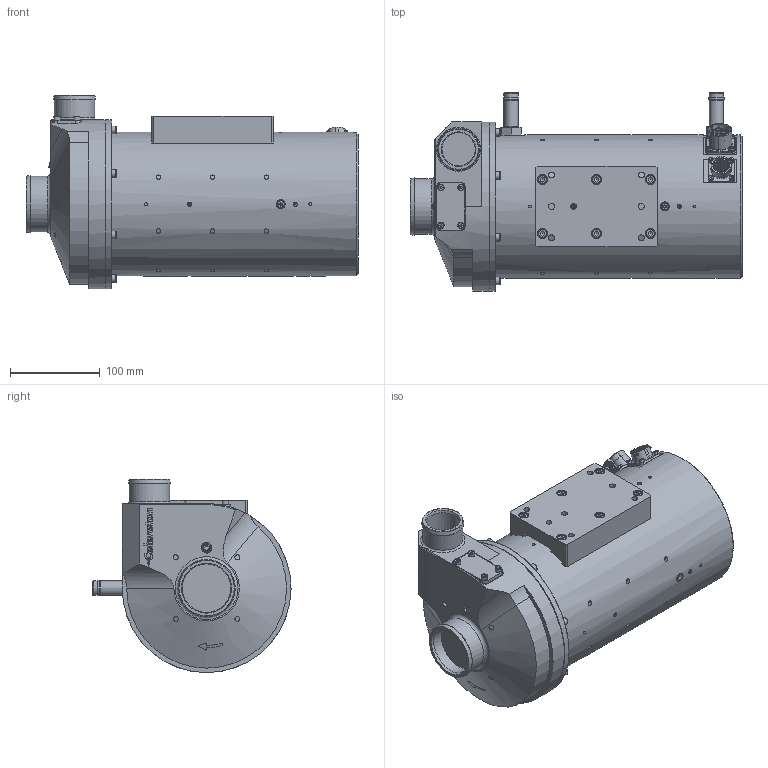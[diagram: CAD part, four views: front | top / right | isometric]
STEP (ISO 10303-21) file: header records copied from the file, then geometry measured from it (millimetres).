
FILE_DESCRIPTION(/* description */ ('Compressor C110'),/* implementation_level */ '2;1');
FILE_NAME(/* name */ /* time_stamp */ '2021-09-23T16:06:29+02:00',/* author */ ('CELEROTON\phweb'),/* organization */ (''),/* preprocessor_version */ 'ST-DEVELOPER v18.1',/* originating_system */ 'Autodesk Inventor 2021',/* authorisation */ '');
FILE_SCHEMA (('AUTOMOTIVE_DESIGN { 1 0 10303 214 3 1 1 }'));
Products named in the file (1): 018911
Bounding box: 369.5 x 220.49 x 215 mm (x, y, z)
Volume: 7555831.1 mm3; surface area: 304439.3 mm2
Topology: 1 solids, 13 shells, 1964 faces, 5227 edges, 3463 vertices
Faces by surface type: plane 1112, cylinder 522, bspline 119, cone 119, torus 92
Full cylindrical faces by diameter (mm): 2.5 x1, 2.68 x12, 3.242 x8, 3.35 x24, 4.134 x2, 4.459 x8, 4.55 x3, 4.917 x19, 5 x8, 5.15 x3, 5.2 x8, 5.5 x12, 6 x3, 6.5 x1, 6.647 x6, 6.88 x1, 7 x10, 7.5 x6, 8 x3, 8.5 x13, 10 x10, 10.084 x2, 10.26 x2, 10.376 x1, 10.719 x2, 11 x6, 11.5 x1, 14.097 x2, 14.1 x1, 15.8 x1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
Entity records: 79554 total; most frequent: CARTESIAN_POINT 27598, ORIENTED_EDGE 10398, DIRECTION 8924, EDGE_CURVE 5199, VERTEX_POINT 3463, AXIS2_PLACEMENT_3D 2983, LINE 2958, VECTOR 2958
